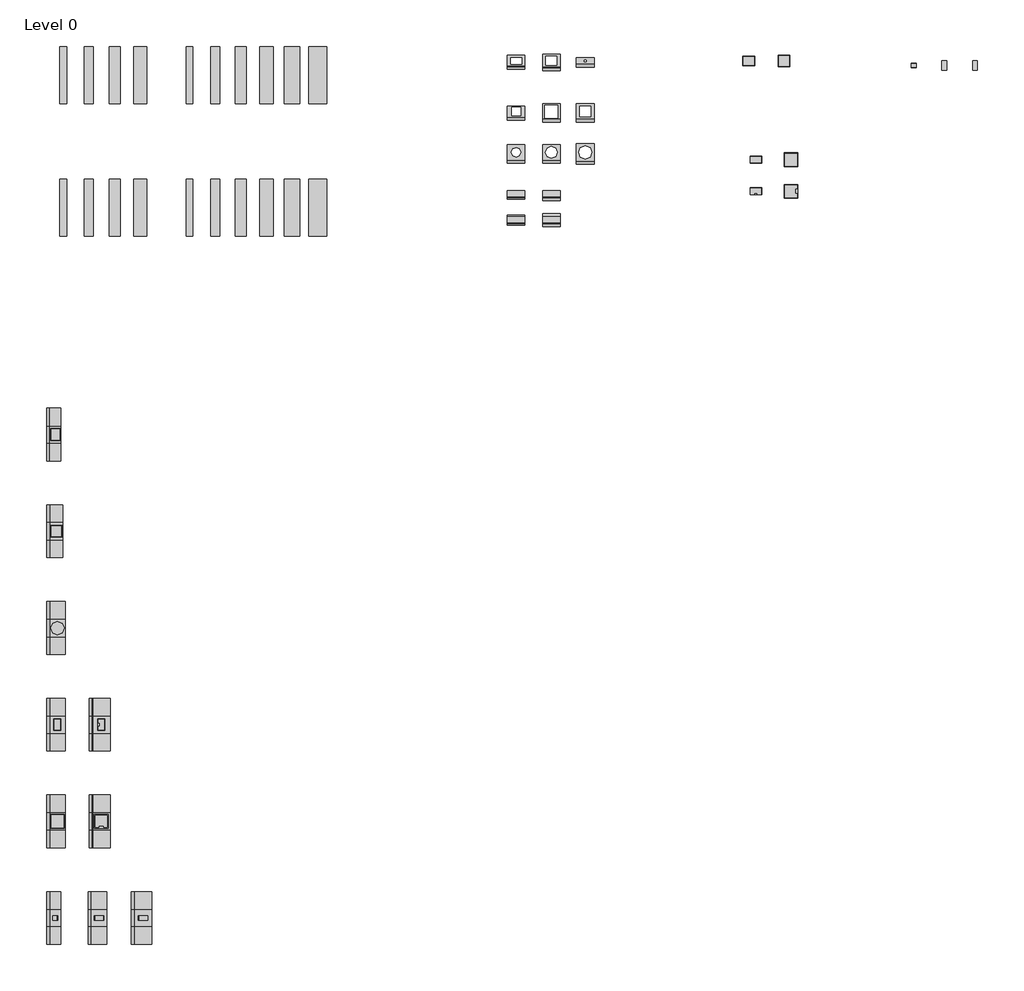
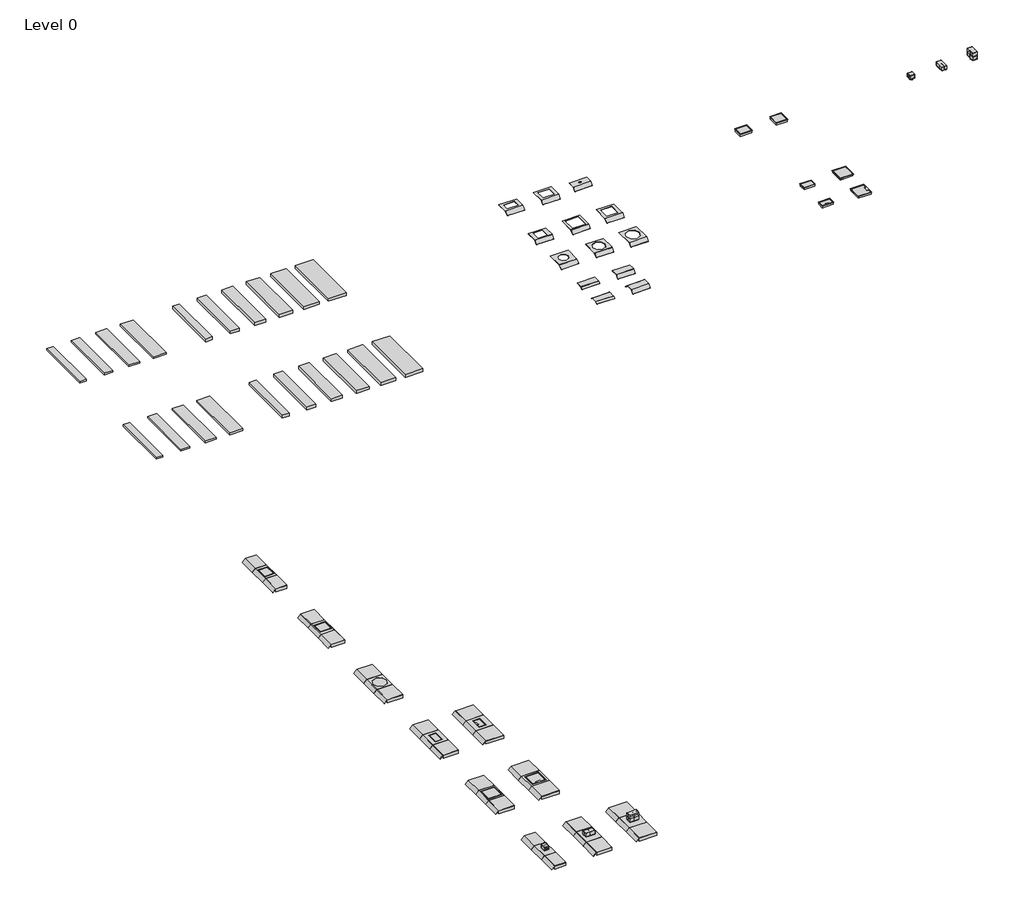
# One storey, incomplete: 61 proxies, 30 cable carrier segments.
"""IFC4 building model written with IfcOpenShell, lengths in millimetres."""

from ifc_helpers import new_model, si_unit, frame, origin, place, context, project, spatial, polyline, outline, extrude, transform, mapped, element, save
from components import electrical_fixtures_814ce579, electrical_fixtures_f748b149, electrical_fixtures_7f43b690, electrical_fixtures_50cfb48d, electrical_fixtures_1099af83, electrical_fixtures_dd45cec8, electrical_fixtures_bc675c06, electrical_fixtures_8ed366d0, electrical_fixtures_be977d01, electrical_fixtures_2923e737, electrical_fixtures_6f066a29, electrical_fixtures_30c5370d, electrical_fixtures_c0643166, electrical_fixtures_3a1a2a50, electrical_fixtures_6b5bff6d, electrical_fixtures_38a7e8f5, electrical_fixtures_79a94ea6, electrical_fixtures_345be723, electrical_fixtures_3529a418, electrical_fixtures_05cc857e, electrical_fixtures_39b6e9ab, electrical_fixtures_66444e16, electrical_fixtures_ba14407c, electrical_fixtures_65cdaa76, electrical_fixtures_09e81cb8, electrical_fixtures_d09597e5, electrical_fixtures_02c799a8, electrical_fixtures_ac32d23e, electrical_fixtures_5756d35e, color_deep_black_c19cb628, color_deep_black_3e0b7094, color_deep_black_c4cdae59, color_deep_black_f01a6ed9, color_deep_black_142afe5e, color_iron_grey_872dce2f

model = new_model("IFC4")

# Units and contexts
model_context = context("Model", 3, world=origin())
ifc_project = project(units=[si_unit("LENGTHUNIT", "METRE", prefix="MILLI")], contexts=[model_context])

# Site, building, storey
site = spatial("IfcSite", under=ifc_project)
building = spatial("IfcBuilding", under=site)
storey = spatial("IfcBuildingStorey", under=building, Name="Level 0", Elevation=0.0)

# Proxies
placement = place(None, origin())
electrical_fixtures_shape = electrical_fixtures_814ce579(model_context)
element("IfcBuildingElementProxy", 1, Name="Electrical_Installation_Hager_Covers-With-Installation-Opening-Q12 : Electrical_Installation_Hager_Covers-With-Installation-Opening-Q12", ObjectType="Electrical_Installation_Hager_Covers-With-Installation-Opening-Q12 : Electrical_Installation_Hager_Covers-With-Installation-Opening-Q12", at=placement, inside=storey, context=model_context, shape_type="MappedRepresentation", body=[
    mapped(electrical_fixtures_shape, transform((-12658.3941097, 8330.9530457, 0.0), x_axis=(1.0, 0.0, 0.0), y_axis=(0.0, 1.0, 0.0), z_axis=(0.0, 0.0, 1.0))),
])
electrical_fixtures_2_shape = electrical_fixtures_f748b149(model_context)
element("IfcBuildingElementProxy", 2, Name="Electrical_Installation_Hager_Blank-Cover-400mm-Single-Sided-Height-40mm : Electrical_Installation_Hager_Blank-Cover-400mm-Single-Sided-Height-40mm", ObjectType="Electrical_Installation_Hager_Blank-Cover-400mm-Single-Sided-Height-40mm : Electrical_Installation_Hager_Blank-Cover-400mm-Single-Sided-Height-40mm", at=placement, inside=storey, context=model_context, shape_type="MappedRepresentation", body=[
    mapped(electrical_fixtures_2_shape, transform((-14229.7859667, 6453.397014, 0.0), x_axis=(1.0, 0.0, 0.0), y_axis=(0.0, 1.0, 0.0), z_axis=(0.0, 0.0, 1.0))),
])
electrical_fixtures_3_shape = electrical_fixtures_7f43b690(model_context)
element("IfcBuildingElementProxy", 3, Name="Electrical_Installation_Hager_Blank-Cover-400mm-Double-Sided-Height-40mm : Electrical_Installation_Hager_Blank-Cover-400mm-Double-Sided-Height-40mm", ObjectType="Electrical_Installation_Hager_Blank-Cover-400mm-Double-Sided-Height-40mm : Electrical_Installation_Hager_Blank-Cover-400mm-Double-Sided-Height-40mm", at=placement, inside=storey, context=model_context, shape_type="MappedRepresentation", body=[
    mapped(electrical_fixtures_3_shape, transform((-14229.7859667, 5863.3856687, 0.0), x_axis=(1.0, 0.0, 0.0), y_axis=(0.0, 1.0, 0.0), z_axis=(0.0, 0.0, 1.0))),
])
electrical_fixtures_4_shape = electrical_fixtures_50cfb48d(model_context)
element("IfcBuildingElementProxy", 4, Name="Electrical_Installation_Hager_Blank-Cover-400mm-Single-Sided-Height-70mm : Electrical_Installation_Hager_Blank-Cover-400mm-Single-Sided-Height-70mm", ObjectType="Electrical_Installation_Hager_Blank-Cover-400mm-Single-Sided-Height-70mm : Electrical_Installation_Hager_Blank-Cover-400mm-Single-Sided-Height-70mm", at=placement, inside=storey, context=model_context, shape_type="MappedRepresentation", body=[
    mapped(electrical_fixtures_4_shape, transform((-13429.9997932, 6453.397014, 0.0), x_axis=(1.0, 0.0, 0.0), y_axis=(0.0, 1.0, 0.0), z_axis=(0.0, 0.0, 1.0))),
])
electrical_fixtures_5_shape = electrical_fixtures_1099af83(model_context)
element("IfcBuildingElementProxy", 5, Name="Electrical_Installation_Hager_Blank-Cover-400mm-Double-Sided-Height-70mm : Electrical_Installation_Hager_Blank-Cover-400mm-Double-Sided-Height-70mm", ObjectType="Electrical_Installation_Hager_Blank-Cover-400mm-Double-Sided-Height-70mm : Electrical_Installation_Hager_Blank-Cover-400mm-Double-Sided-Height-70mm", at=placement, inside=storey, context=model_context, shape_type="MappedRepresentation", body=[
    mapped(electrical_fixtures_5_shape, transform((-13429.9997932, 5863.3856687, 0.0), x_axis=(1.0, 0.0, 0.0), y_axis=(0.0, 1.0, 0.0), z_axis=(0.0, 0.0, 1.0))),
])
electrical_fixtures_6_shape = electrical_fixtures_dd45cec8(model_context)
element("IfcBuildingElementProxy", 6, Name="Electrical_Installation_Hager_VE-EE_Pedestal-box-8 : GB pedestal box 8 inst. fields iron gray", ObjectType="Electrical_Installation_Hager_VE-EE_Pedestal-box-8 : GB pedestal box 8 inst. fields iron gray", at=placement, inside=storey, context=model_context, shape_type="MappedRepresentation", body=[
    mapped(electrical_fixtures_6_shape, transform((-3593.0699403, 9378.4632376, 0.0), x_axis=(1.0, 0.0, 0.0), y_axis=(0.0, 1.0, 0.0), z_axis=(0.0, 0.0, 1.0))),
])
element("IfcBuildingElementProxy", 7, Name="Electrical_Installation_Hager_VE-EE_Pedestal-box-8 : GB pedestal box 8 inst. fields iron gray", ObjectType="Electrical_Installation_Hager_VE-EE_Pedestal-box-8 : GB pedestal box 8 inst. fields iron gray", at=placement, inside=storey, context=model_context, shape_type="MappedRepresentation", body=[
    mapped(electrical_fixtures_6_shape, transform((-22514.0073184, -10020.0103905, 40.5), x_axis=(0.0, -1.0, 0.0), y_axis=(1.0, 0.0, 0.0), z_axis=(0.0, 0.0, 1.0))),
])
electrical_fixtures_7_shape = electrical_fixtures_bc675c06(model_context)
element("IfcBuildingElementProxy", 8, Name="Electrical_Installation_Hager_VE-EE_Pedestal-box-2 : GB pedestal box 2 inst. fields iron gray", ObjectType="Electrical_Installation_Hager_VE-EE_Pedestal-box-2 : GB pedestal box 2 inst. fields iron gray", at=placement, inside=storey, context=model_context, shape_type="MappedRepresentation", body=[
    mapped(electrical_fixtures_7_shape, transform((-4986.8644368, 9378.4632376, 0.0), x_axis=(1.0, 0.0, 0.0), y_axis=(0.0, 1.0, 0.0), z_axis=(0.0, 0.0, 1.0))),
])
element("IfcBuildingElementProxy", 9, Name="Electrical_Installation_Hager_VE-EE_Pedestal-box-2 : GB pedestal box 2 inst. fields iron gray", ObjectType="Electrical_Installation_Hager_VE-EE_Pedestal-box-2 : GB pedestal box 2 inst. fields iron gray", at=placement, inside=storey, context=model_context, shape_type="MappedRepresentation", body=[
    mapped(electrical_fixtures_7_shape, transform((-24514.0073184, -10020.0103905, 40.5), x_axis=(0.0, -1.0, 0.0), y_axis=(1.0, 0.0, 0.0), z_axis=(0.0, 0.0, 1.0))),
])
electrical_fixtures_8_shape = electrical_fixtures_8ed366d0(model_context)
element("IfcBuildingElementProxy", 10, Name="Electrical_Installation_Hager_VE-EE_Pedestal-box-4 : GB pedestal box 4 inst. fields iron gray", ObjectType="Electrical_Installation_Hager_VE-EE_Pedestal-box-4 : GB pedestal box 4 inst. fields iron gray", at=placement, inside=storey, context=model_context, shape_type="MappedRepresentation", body=[
    mapped(electrical_fixtures_8_shape, transform((-4295.1378943, 9378.4632376, 0.0), x_axis=(1.0, 0.0, 0.0), y_axis=(0.0, 1.0, 0.0), z_axis=(0.0, 0.0, 1.0))),
])
element("IfcBuildingElementProxy", 11, Name="Electrical_Installation_Hager_VE-EE_Pedestal-box-4 : GB pedestal box 4 inst. fields iron gray", ObjectType="Electrical_Installation_Hager_VE-EE_Pedestal-box-4 : GB pedestal box 4 inst. fields iron gray", at=placement, inside=storey, context=model_context, shape_type="MappedRepresentation", body=[
    mapped(electrical_fixtures_8_shape, transform((-23514.0073184, -10020.0103905, 40.5), x_axis=(0.0, -1.0, 0.0), y_axis=(1.0, 0.0, 0.0), z_axis=(0.0, 0.0, 1.0))),
])
electrical_fixtures_9_shape = electrical_fixtures_be977d01(model_context)
element("IfcBuildingElementProxy", 12, Name="Electrical_Installation_Hager_Covers-With-Installation-Opening-Q06 : Electrical_Installation_Hager_Covers-With-Installation-Opening-Q06", ObjectType="Electrical_Installation_Hager_Covers-With-Installation-Opening-Q06 : Electrical_Installation_Hager_Covers-With-Installation-Opening-Q06", at=placement, inside=storey, context=model_context, shape_type="MappedRepresentation", body=[
    mapped(electrical_fixtures_9_shape, transform((-14229.7859667, 8330.9530457, 0.0), x_axis=(1.0, 0.0, 0.0), y_axis=(0.0, 1.0, 0.0), z_axis=(0.0, 0.0, 1.0))),
])
electrical_fixtures_10_shape = electrical_fixtures_2923e737(model_context)
element("IfcBuildingElementProxy", 13, Name="Electrical_Installation_Hager_Covers-With-Installation-Opening-Q08 : Electrical_Installation_Hager_Covers-With-Installation-Opening-Q08", ObjectType="Electrical_Installation_Hager_Covers-With-Installation-Opening-Q08 : Electrical_Installation_Hager_Covers-With-Installation-Opening-Q08", at=placement, inside=storey, context=model_context, shape_type="MappedRepresentation", body=[
    mapped(electrical_fixtures_10_shape, transform((-13429.9997932, 8330.9530457, 0.0), x_axis=(1.0, 0.0, 0.0), y_axis=(0.0, 1.0, 0.0), z_axis=(0.0, 0.0, 1.0))),
])
element("IfcBuildingElementProxy", 14, Name="Electrical_Installation_Hager_Covers-With-Installation-Opening-Q08 : Electrical_Installation_Hager_Covers-With-Installation-Opening-Q08", ObjectType="Electrical_Installation_Hager_Covers-With-Installation-Opening-Q08 : Electrical_Installation_Hager_Covers-With-Installation-Opening-Q08", at=placement, inside=storey, context=model_context, shape_type="MappedRepresentation", body=[
    mapped(electrical_fixtures_10_shape, transform((-24463.9572711, -7620.0103905, 0.0), x_axis=(0.0, -1.0, 0.0), y_axis=(1.0, 0.0, 0.0), z_axis=(0.0, 0.0, 1.0))),
])
electrical_fixtures_11_shape = electrical_fixtures_6f066a29(model_context)
element("IfcBuildingElementProxy", 15, Name="Electrical_Installation_Hager_Covers-With-Installation-Opening-Q12 : Electrical_Installation_Hager_Covers-With-Installation-Opening-Q12", ObjectType="Electrical_Installation_Hager_Covers-With-Installation-Opening-Q12 : Electrical_Installation_Hager_Covers-With-Installation-Opening-Q12", at=placement, inside=storey, context=model_context, shape_type="MappedRepresentation", body=[
    mapped(electrical_fixtures_11_shape, transform((-24489.0073184, -1020.0103905, 0.0), x_axis=(0.0, -1.0, 0.0), y_axis=(1.0, 0.0, 0.0), z_axis=(0.0, 0.0, 1.0))),
])
electrical_fixtures_12_shape = electrical_fixtures_30c5370d(model_context)
element("IfcBuildingElementProxy", 16, Name="Electrical_Installation_Hager_Covers-With-Installation-Opening-R06 : Electrical_Installation_Hager_Covers-With-Installation-Opening-R06", ObjectType="Electrical_Installation_Hager_Covers-With-Installation-Opening-R06 : Electrical_Installation_Hager_Covers-With-Installation-Opening-R06", at=placement, inside=storey, context=model_context, shape_type="MappedRepresentation", body=[
    mapped(electrical_fixtures_12_shape, transform((-14229.7859667, 7405.0262255, 0.0), x_axis=(1.0, 0.0, 0.0), y_axis=(0.0, 1.0, 0.0), z_axis=(0.0, 0.0, 1.0))),
])
electrical_fixtures_13_shape = electrical_fixtures_c0643166(model_context)
element("IfcBuildingElementProxy", 17, Name="Electrical_Installation_Hager_Covers-With-Installation-Opening-R10 : Electrical_Installation_Hager_Covers-With-Installation-Opening-R10", ObjectType="Electrical_Installation_Hager_Covers-With-Installation-Opening-R10 : Electrical_Installation_Hager_Covers-With-Installation-Opening-R10", at=placement, inside=storey, context=model_context, shape_type="MappedRepresentation", body=[
    mapped(electrical_fixtures_13_shape, transform((-13429.9997932, 7405.0262255, 0.0), x_axis=(1.0, 0.0, 0.0), y_axis=(0.0, 1.0, 0.0), z_axis=(0.0, 0.0, 1.0))),
])
electrical_fixtures_14_shape = electrical_fixtures_3a1a2a50(model_context)
element("IfcBuildingElementProxy", 18, Name="Electrical_Installation_Hager_Covers-With-Installation-Opening-R12 : Electrical_Installation_Hager_Covers-With-Installation-Opening-R12", ObjectType="Electrical_Installation_Hager_Covers-With-Installation-Opening-R12 : Electrical_Installation_Hager_Covers-With-Installation-Opening-R12", at=placement, inside=storey, context=model_context, shape_type="MappedRepresentation", body=[
    mapped(electrical_fixtures_14_shape, transform((-12658.3941097, 7405.0262255, 0.0), x_axis=(1.0, 0.0, 0.0), y_axis=(0.0, 1.0, 0.0), z_axis=(0.0, 0.0, 1.0))),
])
electrical_fixtures_15_shape = electrical_fixtures_6b5bff6d(model_context)
element("IfcBuildingElementProxy", 19, Name="Electrical_Installation_Hager_Covers-With-Installation-Opening-R12 : Electrical_Installation_Hager_Covers-With-Installation-Opening-R12", ObjectType="Electrical_Installation_Hager_Covers-With-Installation-Opening-R12 : Electrical_Installation_Hager_Covers-With-Installation-Opening-R12", at=placement, inside=storey, context=model_context, shape_type="MappedRepresentation", body=[
    mapped(electrical_fixtures_15_shape, transform((-24464.0073184, -3220.0103905, 0.0), x_axis=(0.0, -1.0, 0.0), y_axis=(1.0, 0.0, 0.0), z_axis=(0.0, 0.0, 1.0))),
])
electrical_fixtures_16_shape = electrical_fixtures_38a7e8f5(model_context)
element("IfcBuildingElementProxy", 20, Name="Electrical_Installation_Hager_Blank-Cover-400mm-Single-Sided-Height-70mm : Electrical_Installation_Hager_Blank-Cover-400mm-Single-Sided-Height-70mm", ObjectType="Electrical_Installation_Hager_Blank-Cover-400mm-Single-Sided-Height-70mm : Electrical_Installation_Hager_Blank-Cover-400mm-Single-Sided-Height-70mm", at=placement, inside=storey, context=model_context, shape_type="MappedRepresentation", body=[
    mapped(electrical_fixtures_16_shape, transform((-24509.7913984, 1579.9896095, 0.0), x_axis=(0.0, -1.0, 0.0), y_axis=(1.0, 0.0, 0.0), z_axis=(0.0, 0.0, 1.0))),
])
element("IfcBuildingElementProxy", 21, Name="Electrical_Installation_Hager_Blank-Cover-400mm-Single-Sided-Height-70mm : Electrical_Installation_Hager_Blank-Cover-400mm-Single-Sided-Height-70mm", ObjectType="Electrical_Installation_Hager_Blank-Cover-400mm-Single-Sided-Height-70mm : Electrical_Installation_Hager_Blank-Cover-400mm-Single-Sided-Height-70mm", at=placement, inside=storey, context=model_context, shape_type="MappedRepresentation", body=[
    mapped(electrical_fixtures_16_shape, transform((-24509.7913984, 779.9896095, 0.0), x_axis=(0.0, -1.0, 0.0), y_axis=(1.0, 0.0, 0.0), z_axis=(0.0, 0.0, 1.0))),
])
element("IfcBuildingElementProxy", 22, Name="Electrical_Installation_Hager_Blank-Cover-400mm-Single-Sided-Height-70mm : Electrical_Installation_Hager_Blank-Cover-400mm-Single-Sided-Height-70mm", ObjectType="Electrical_Installation_Hager_Blank-Cover-400mm-Single-Sided-Height-70mm : Electrical_Installation_Hager_Blank-Cover-400mm-Single-Sided-Height-70mm", at=placement, inside=storey, context=model_context, shape_type="MappedRepresentation", body=[
    mapped(electrical_fixtures_16_shape, transform((-24514.0073184, -9420.0103905, 0.0), x_axis=(0.0, -1.0, 0.0), y_axis=(1.0, 0.0, 0.0), z_axis=(0.0, 0.0, 1.0))),
])
element("IfcBuildingElementProxy", 23, Name="Electrical_Installation_Hager_Blank-Cover-400mm-Single-Sided-Height-70mm : Electrical_Installation_Hager_Blank-Cover-400mm-Single-Sided-Height-70mm", ObjectType="Electrical_Installation_Hager_Blank-Cover-400mm-Single-Sided-Height-70mm : Electrical_Installation_Hager_Blank-Cover-400mm-Single-Sided-Height-70mm", at=placement, inside=storey, context=model_context, shape_type="MappedRepresentation", body=[
    mapped(electrical_fixtures_16_shape, transform((-24514.0073184, -10220.0103905, 0.0), x_axis=(0.0, -1.0, 0.0), y_axis=(1.0, 0.0, 0.0), z_axis=(0.0, 0.0, 1.0))),
])
electrical_fixtures_17_shape = electrical_fixtures_79a94ea6(model_context)
element("IfcBuildingElementProxy", 24, Name="Electrical_Installation_Hager_Blank-Cover-400mm-Single-Sided-Height-70mm : Electrical_Installation_Hager_Blank-Cover-400mm-Single-Sided-Height-70mm", ObjectType="Electrical_Installation_Hager_Blank-Cover-400mm-Single-Sided-Height-70mm : Electrical_Installation_Hager_Blank-Cover-400mm-Single-Sided-Height-70mm", at=placement, inside=storey, context=model_context, shape_type="MappedRepresentation", body=[
    mapped(electrical_fixtures_17_shape, transform((-24464.0073184, -2820.0103905, 0.0), x_axis=(0.0, -1.0, 0.0), y_axis=(1.0, 0.0, 0.0), z_axis=(0.0, 0.0, 1.0))),
])
element("IfcBuildingElementProxy", 25, Name="Electrical_Installation_Hager_Blank-Cover-400mm-Single-Sided-Height-70mm : Electrical_Installation_Hager_Blank-Cover-400mm-Single-Sided-Height-70mm", ObjectType="Electrical_Installation_Hager_Blank-Cover-400mm-Single-Sided-Height-70mm : Electrical_Installation_Hager_Blank-Cover-400mm-Single-Sided-Height-70mm", at=placement, inside=storey, context=model_context, shape_type="MappedRepresentation", body=[
    mapped(electrical_fixtures_17_shape, transform((-24464.0073184, -3620.0103905, 0.0), x_axis=(0.0, -1.0, 0.0), y_axis=(1.0, 0.0, 0.0), z_axis=(0.0, 0.0, 1.0))),
])
element("IfcBuildingElementProxy", 26, Name="Electrical_Installation_Hager_Blank-Cover-400mm-Single-Sided-Height-70mm : Electrical_Installation_Hager_Blank-Cover-400mm-Single-Sided-Height-70mm", ObjectType="Electrical_Installation_Hager_Blank-Cover-400mm-Single-Sided-Height-70mm : Electrical_Installation_Hager_Blank-Cover-400mm-Single-Sided-Height-70mm", at=placement, inside=storey, context=model_context, shape_type="MappedRepresentation", body=[
    mapped(electrical_fixtures_17_shape, transform((-24464.0073184, -5020.0103905, 0.0), x_axis=(0.0, -1.0, 0.0), y_axis=(1.0, 0.0, 0.0), z_axis=(0.0, 0.0, 1.0))),
])
element("IfcBuildingElementProxy", 27, Name="Electrical_Installation_Hager_Blank-Cover-400mm-Single-Sided-Height-70mm : Electrical_Installation_Hager_Blank-Cover-400mm-Single-Sided-Height-70mm", ObjectType="Electrical_Installation_Hager_Blank-Cover-400mm-Single-Sided-Height-70mm : Electrical_Installation_Hager_Blank-Cover-400mm-Single-Sided-Height-70mm", at=placement, inside=storey, context=model_context, shape_type="MappedRepresentation", body=[
    mapped(electrical_fixtures_17_shape, transform((-24464.0073184, -5820.0103905, 0.0), x_axis=(0.0, -1.0, 0.0), y_axis=(1.0, 0.0, 0.0), z_axis=(0.0, 0.0, 1.0))),
])
element("IfcBuildingElementProxy", 28, Name="Electrical_Installation_Hager_Blank-Cover-400mm-Single-Sided-Height-70mm : Electrical_Installation_Hager_Blank-Cover-400mm-Single-Sided-Height-70mm", ObjectType="Electrical_Installation_Hager_Blank-Cover-400mm-Single-Sided-Height-70mm : Electrical_Installation_Hager_Blank-Cover-400mm-Single-Sided-Height-70mm", at=placement, inside=storey, context=model_context, shape_type="MappedRepresentation", body=[
    mapped(electrical_fixtures_17_shape, transform((-24463.9572711, -7220.0103905, 0.0), x_axis=(0.0, -1.0, 0.0), y_axis=(1.0, 0.0, 0.0), z_axis=(0.0, 0.0, 1.0))),
])
element("IfcBuildingElementProxy", 29, Name="Electrical_Installation_Hager_Blank-Cover-400mm-Single-Sided-Height-70mm : Electrical_Installation_Hager_Blank-Cover-400mm-Single-Sided-Height-70mm", ObjectType="Electrical_Installation_Hager_Blank-Cover-400mm-Single-Sided-Height-70mm : Electrical_Installation_Hager_Blank-Cover-400mm-Single-Sided-Height-70mm", at=placement, inside=storey, context=model_context, shape_type="MappedRepresentation", body=[
    mapped(electrical_fixtures_17_shape, transform((-24463.9572711, -8020.0103905, 0.0), x_axis=(0.0, -1.0, 0.0), y_axis=(1.0, 0.0, 0.0), z_axis=(0.0, 0.0, 1.0))),
])
element("IfcBuildingElementProxy", 30, Name="Electrical_Installation_Hager_Blank-Cover-400mm-Single-Sided-Height-70mm : Electrical_Installation_Hager_Blank-Cover-400mm-Single-Sided-Height-70mm", ObjectType="Electrical_Installation_Hager_Blank-Cover-400mm-Single-Sided-Height-70mm : Electrical_Installation_Hager_Blank-Cover-400mm-Single-Sided-Height-70mm", at=placement, inside=storey, context=model_context, shape_type="MappedRepresentation", body=[
    mapped(electrical_fixtures_17_shape, transform((-23514.0073184, -9420.0103905, 0.0), x_axis=(0.0, -1.0, 0.0), y_axis=(1.0, 0.0, 0.0), z_axis=(0.0, 0.0, 1.0))),
])
element("IfcBuildingElementProxy", 31, Name="Electrical_Installation_Hager_Blank-Cover-400mm-Single-Sided-Height-70mm : Electrical_Installation_Hager_Blank-Cover-400mm-Single-Sided-Height-70mm", ObjectType="Electrical_Installation_Hager_Blank-Cover-400mm-Single-Sided-Height-70mm : Electrical_Installation_Hager_Blank-Cover-400mm-Single-Sided-Height-70mm", at=placement, inside=storey, context=model_context, shape_type="MappedRepresentation", body=[
    mapped(electrical_fixtures_17_shape, transform((-23514.0073184, -10220.0103905, 0.0), x_axis=(0.0, -1.0, 0.0), y_axis=(1.0, 0.0, 0.0), z_axis=(0.0, 0.0, 1.0))),
])
electrical_fixtures_18_shape = electrical_fixtures_345be723(model_context)
element("IfcBuildingElementProxy", 32, Name="Electrical_Installation_Hager_Blank-Cover-400mm-Single-Sided-Height-70mm : Electrical_Installation_Hager_Blank-Cover-400mm-Single-Sided-Height-70mm", ObjectType="Electrical_Installation_Hager_Blank-Cover-400mm-Single-Sided-Height-70mm : Electrical_Installation_Hager_Blank-Cover-400mm-Single-Sided-Height-70mm", at=placement, inside=storey, context=model_context, shape_type="MappedRepresentation", body=[
    mapped(electrical_fixtures_18_shape, transform((-23464.0073184, -5020.0103905, 0.0), x_axis=(0.0, -1.0, 0.0), y_axis=(1.0, 0.0, 0.0), z_axis=(0.0, 0.0, 1.0))),
])
element("IfcBuildingElementProxy", 33, Name="Electrical_Installation_Hager_Blank-Cover-400mm-Single-Sided-Height-70mm : Electrical_Installation_Hager_Blank-Cover-400mm-Single-Sided-Height-70mm", ObjectType="Electrical_Installation_Hager_Blank-Cover-400mm-Single-Sided-Height-70mm : Electrical_Installation_Hager_Blank-Cover-400mm-Single-Sided-Height-70mm", at=placement, inside=storey, context=model_context, shape_type="MappedRepresentation", body=[
    mapped(electrical_fixtures_18_shape, transform((-23464.0073184, -5820.0103905, 0.0), x_axis=(0.0, -1.0, 0.0), y_axis=(1.0, 0.0, 0.0), z_axis=(0.0, 0.0, 1.0))),
])
element("IfcBuildingElementProxy", 34, Name="Electrical_Installation_Hager_Blank-Cover-400mm-Single-Sided-Height-70mm : Electrical_Installation_Hager_Blank-Cover-400mm-Single-Sided-Height-70mm", ObjectType="Electrical_Installation_Hager_Blank-Cover-400mm-Single-Sided-Height-70mm : Electrical_Installation_Hager_Blank-Cover-400mm-Single-Sided-Height-70mm", at=placement, inside=storey, context=model_context, shape_type="MappedRepresentation", body=[
    mapped(electrical_fixtures_18_shape, transform((-23463.9572711, -7220.0103905, 0.0), x_axis=(0.0, -1.0, 0.0), y_axis=(1.0, 0.0, 0.0), z_axis=(0.0, 0.0, 1.0))),
])
element("IfcBuildingElementProxy", 35, Name="Electrical_Installation_Hager_Blank-Cover-400mm-Single-Sided-Height-70mm : Electrical_Installation_Hager_Blank-Cover-400mm-Single-Sided-Height-70mm", ObjectType="Electrical_Installation_Hager_Blank-Cover-400mm-Single-Sided-Height-70mm : Electrical_Installation_Hager_Blank-Cover-400mm-Single-Sided-Height-70mm", at=placement, inside=storey, context=model_context, shape_type="MappedRepresentation", body=[
    mapped(electrical_fixtures_18_shape, transform((-23463.9572711, -8020.0103905, 0.0), x_axis=(0.0, -1.0, 0.0), y_axis=(1.0, 0.0, 0.0), z_axis=(0.0, 0.0, 1.0))),
])
element("IfcBuildingElementProxy", 36, Name="Electrical_Installation_Hager_Blank-Cover-400mm-Single-Sided-Height-70mm : Electrical_Installation_Hager_Blank-Cover-400mm-Single-Sided-Height-70mm", ObjectType="Electrical_Installation_Hager_Blank-Cover-400mm-Single-Sided-Height-70mm : Electrical_Installation_Hager_Blank-Cover-400mm-Single-Sided-Height-70mm", at=placement, inside=storey, context=model_context, shape_type="MappedRepresentation", body=[
    mapped(electrical_fixtures_18_shape, transform((-22514.0073184, -9420.0103905, 0.0), x_axis=(0.0, -1.0, 0.0), y_axis=(1.0, 0.0, 0.0), z_axis=(0.0, 0.0, 1.0))),
])
element("IfcBuildingElementProxy", 37, Name="Electrical_Installation_Hager_Blank-Cover-400mm-Single-Sided-Height-70mm : Electrical_Installation_Hager_Blank-Cover-400mm-Single-Sided-Height-70mm", ObjectType="Electrical_Installation_Hager_Blank-Cover-400mm-Single-Sided-Height-70mm : Electrical_Installation_Hager_Blank-Cover-400mm-Single-Sided-Height-70mm", at=placement, inside=storey, context=model_context, shape_type="MappedRepresentation", body=[
    mapped(electrical_fixtures_18_shape, transform((-22514.0073184, -10220.0103905, 0.0), x_axis=(0.0, -1.0, 0.0), y_axis=(1.0, 0.0, 0.0), z_axis=(0.0, 0.0, 1.0))),
])
electrical_fixtures_19_shape = electrical_fixtures_3529a418(model_context)
element("IfcBuildingElementProxy", 38, Name="Electrical_Installation_Hager_Blank-Cover-400mm-Single-Sided-Height-70mm : Electrical_Installation_Hager_Blank-Cover-400mm-Single-Sided-Height-70mm", ObjectType="Electrical_Installation_Hager_Blank-Cover-400mm-Single-Sided-Height-70mm : Electrical_Installation_Hager_Blank-Cover-400mm-Single-Sided-Height-70mm", at=placement, inside=storey, context=model_context, shape_type="MappedRepresentation", body=[
    mapped(electrical_fixtures_19_shape, transform((-24489.0073184, -620.0103905, 0.0), x_axis=(0.0, -1.0, 0.0), y_axis=(1.0, 0.0, 0.0), z_axis=(0.0, 0.0, 1.0))),
])
element("IfcBuildingElementProxy", 39, Name="Electrical_Installation_Hager_Blank-Cover-400mm-Single-Sided-Height-70mm : Electrical_Installation_Hager_Blank-Cover-400mm-Single-Sided-Height-70mm", ObjectType="Electrical_Installation_Hager_Blank-Cover-400mm-Single-Sided-Height-70mm : Electrical_Installation_Hager_Blank-Cover-400mm-Single-Sided-Height-70mm", at=placement, inside=storey, context=model_context, shape_type="MappedRepresentation", body=[
    mapped(electrical_fixtures_19_shape, transform((-24489.0073184, -1420.0103905, 0.0), x_axis=(0.0, -1.0, 0.0), y_axis=(1.0, 0.0, 0.0), z_axis=(0.0, 0.0, 1.0))),
])
electrical_fixtures_20_shape = electrical_fixtures_05cc857e(model_context)
element("IfcBuildingElementProxy", 40, Name="Electrical_Installation_Hager_Covers-With-Installation-Opening-E04 : Electrical_Installation_Hager_Covers-With-Installation-Opening-E04", ObjectType="Electrical_Installation_Hager_Covers-With-Installation-Opening-E04 : Electrical_Installation_Hager_Covers-With-Installation-Opening-E04", at=placement, inside=storey, context=model_context, shape_type="MappedRepresentation", body=[
    mapped(electrical_fixtures_20_shape, transform((-14229.7859667, 9484.2786149, 0.0), x_axis=(1.0, 0.0, 0.0), y_axis=(0.0, 1.0, 0.0), z_axis=(0.0, 0.0, 1.0))),
])
electrical_fixtures_21_shape = electrical_fixtures_39b6e9ab(model_context)
element("IfcBuildingElementProxy", 41, Name="Electrical_Installation_Hager_Covers-With-Installation-Opening-E04 : Electrical_Installation_Hager_Covers-With-Installation-Opening-E04", ObjectType="Electrical_Installation_Hager_Covers-With-Installation-Opening-E04 : Electrical_Installation_Hager_Covers-With-Installation-Opening-E04", at=placement, inside=storey, context=model_context, shape_type="MappedRepresentation", body=[
    mapped(electrical_fixtures_21_shape, transform((-24464.0073184, -5420.0103905, 0.0), x_axis=(0.0, -1.0, 0.0), y_axis=(1.0, 0.0, 0.0), z_axis=(0.0, 0.0, 1.0))),
])
electrical_fixtures_22_shape = electrical_fixtures_66444e16(model_context)
element("IfcBuildingElementProxy", 42, Name="Electrical_Installation_Hager_Covers-With-Installation-Opening-E04 : Electrical_Installation_Hager_Covers-With-Installation-Opening-E04", ObjectType="Electrical_Installation_Hager_Covers-With-Installation-Opening-E04 : Electrical_Installation_Hager_Covers-With-Installation-Opening-E04", at=placement, inside=storey, context=model_context, shape_type="MappedRepresentation", body=[
    mapped(electrical_fixtures_22_shape, transform((-23464.0073184, -5420.0103905, 0.0), x_axis=(0.0, -1.0, 0.0), y_axis=(1.0, 0.0, 0.0), z_axis=(0.0, 0.0, 1.0))),
])
electrical_fixtures_23_shape = electrical_fixtures_ba14407c(model_context)
element("IfcBuildingElementProxy", 43, Name="Electrical_Installation_Hager_Covers-With-Installation-Opening-E09 : Electrical_Installation_Hager_Covers-With-Installation-Opening-E09", ObjectType="Electrical_Installation_Hager_Covers-With-Installation-Opening-E09 : Electrical_Installation_Hager_Covers-With-Installation-Opening-E09", at=placement, inside=storey, context=model_context, shape_type="MappedRepresentation", body=[
    mapped(electrical_fixtures_23_shape, transform((-13429.9997932, 9484.2786149, 0.0), x_axis=(1.0, 0.0, 0.0), y_axis=(0.0, 1.0, 0.0), z_axis=(0.0, 0.0, 1.0))),
])
electrical_fixtures_24_shape = electrical_fixtures_65cdaa76(model_context)
element("IfcBuildingElementProxy", 44, Name="Electrical_Installation_Hager_Covers-With-Installation-Opening-E09 : Electrical_Installation_Hager_Covers-With-Installation-Opening-E09", ObjectType="Electrical_Installation_Hager_Covers-With-Installation-Opening-E09 : Electrical_Installation_Hager_Covers-With-Installation-Opening-E09", at=placement, inside=storey, context=model_context, shape_type="MappedRepresentation", body=[
    mapped(electrical_fixtures_24_shape, transform((-24509.7913984, 1179.9896095, 0.0), x_axis=(0.0, -1.0, 0.0), y_axis=(1.0, 0.0, 0.0), z_axis=(0.0, 0.0, 1.0))),
])
electrical_fixtures_25_shape = electrical_fixtures_09e81cb8(model_context)
element("IfcBuildingElementProxy", 45, Name="Electrical_Installation_Hager_Covers-With-Installation-Opening-GBZ : Electrical_Installation_Hager_Covers-With-Installation-Opening-GBZ", ObjectType="Electrical_Installation_Hager_Covers-With-Installation-Opening-GBZ : Electrical_Installation_Hager_Covers-With-Installation-Opening-GBZ", at=placement, inside=storey, context=model_context, shape_type="MappedRepresentation", body=[
    mapped(electrical_fixtures_25_shape, transform((-12658.3941097, 9484.2786149, 0.0), x_axis=(1.0, 0.0, 0.0), y_axis=(0.0, 1.0, 0.0), z_axis=(0.0, 0.0, 1.0))),
])
electrical_fixtures_26_shape = electrical_fixtures_d09597e5(model_context)
element("IfcBuildingElementProxy", 46, Name="Electrical_Installation_Hager_Covers-With-Installation-Opening-GBZ : Electrical_Installation_Hager_Covers-With-Installation-Opening-GBZ", ObjectType="Electrical_Installation_Hager_Covers-With-Installation-Opening-GBZ : Electrical_Installation_Hager_Covers-With-Installation-Opening-GBZ", at=placement, inside=storey, context=model_context, shape_type="MappedRepresentation", body=[
    mapped(electrical_fixtures_26_shape, transform((-24514.0073184, -9820.0103905, 0.0), x_axis=(0.0, -1.0, 0.0), y_axis=(1.0, 0.0, 0.0), z_axis=(0.0, 0.0, 1.0))),
])
electrical_fixtures_27_shape = electrical_fixtures_02c799a8(model_context)
element("IfcBuildingElementProxy", 47, Name="Electrical_Installation_Hager_Covers-With-Installation-Opening-GBZ : Electrical_Installation_Hager_Covers-With-Installation-Opening-GBZ", ObjectType="Electrical_Installation_Hager_Covers-With-Installation-Opening-GBZ : Electrical_Installation_Hager_Covers-With-Installation-Opening-GBZ", at=placement, inside=storey, context=model_context, shape_type="MappedRepresentation", body=[
    mapped(electrical_fixtures_27_shape, transform((-23514.0073184, -9820.0103905, 0.0), x_axis=(0.0, -1.0, 0.0), y_axis=(1.0, 0.0, 0.0), z_axis=(0.0, 0.0, 1.0))),
])
electrical_fixtures_28_shape = electrical_fixtures_ac32d23e(model_context)
element("IfcBuildingElementProxy", 48, Name="Electrical_Installation_Hager_Covers-With-Installation-Opening-GBZ : Electrical_Installation_Hager_Covers-With-Installation-Opening-GBZ", ObjectType="Electrical_Installation_Hager_Covers-With-Installation-Opening-GBZ : Electrical_Installation_Hager_Covers-With-Installation-Opening-GBZ", at=placement, inside=storey, context=model_context, shape_type="MappedRepresentation", body=[
    mapped(electrical_fixtures_28_shape, transform((-22514.0073184, -9820.0103905, 0.0), x_axis=(0.0, -1.0, 0.0), y_axis=(1.0, 0.0, 0.0), z_axis=(0.0, 0.0, 1.0))),
])
electrical_fixtures_29_shape = electrical_fixtures_5756d35e(model_context)
element("IfcBuildingElementProxy", 49, Name="Electrical_Installation_Hager_Covers-With-Installation-Opening-Q08 : Electrical_Installation_Hager_Covers-With-Installation-Opening-Q08", ObjectType="Electrical_Installation_Hager_Covers-With-Installation-Opening-Q08 : Electrical_Installation_Hager_Covers-With-Installation-Opening-Q08", at=placement, inside=storey, context=model_context, shape_type="MappedRepresentation", body=[
    mapped(electrical_fixtures_29_shape, transform((-23463.9572711, -7620.0103905, 0.0), x_axis=(0.0, -1.0, 0.0), y_axis=(1.0, 0.0, 0.0), z_axis=(0.0, 0.0, 1.0))),
])
color_deep_black_shape = color_deep_black_c19cb628(model_context)
element("IfcBuildingElementProxy", 50, Name="Electrical_Installation_Hager_VE-EE_Cover-VDQ12 : Color Deep Black", ObjectType="Electrical_Installation_Hager_VE-EE_Cover-VDQ12 : Color Deep Black", at=placement, inside=storey, context=model_context, shape_type="MappedRepresentation", body=[
    mapped(color_deep_black_shape, transform((-7938.7858421, 9484.2786149, 0.0), x_axis=(1.0, 0.0, 0.0), y_axis=(0.0, 1.0, 0.0), z_axis=(0.0, 0.0, 1.0))),
])
color_deep_black_2_shape = color_deep_black_3e0b7094(model_context)
element("IfcBuildingElementProxy", 51, Name="Electrical_Installation_Hager_VE-EE_Cover-BDQ08 : Color Deep Black", ObjectType="Electrical_Installation_Hager_VE-EE_Cover-BDQ08 : Color Deep Black", at=placement, inside=storey, context=model_context, shape_type="MappedRepresentation", body=[
    mapped(color_deep_black_2_shape, transform((-7779.7305517, 7234.2786149, 0.0), x_axis=(1.0, 0.0, 0.0), y_axis=(0.0, 1.0, 0.0), z_axis=(0.0, 0.0, 1.0))),
])
color_deep_black_3_shape = color_deep_black_c4cdae59(model_context)
element("IfcBuildingElementProxy", 52, Name="Electrical_Installation_Hager_VE-EE_Cover-BDE04 : Color Deep Black", ObjectType="Electrical_Installation_Hager_VE-EE_Cover-BDE04 : Color Deep Black", at=placement, inside=storey, context=model_context, shape_type="MappedRepresentation", body=[
    mapped(color_deep_black_3_shape, transform((-8579.7305517, 7234.2786149, 0.0), x_axis=(1.0, 0.0, 0.0), y_axis=(0.0, 1.0, 0.0), z_axis=(0.0, 0.0, 1.0))),
])
color_deep_black_4_shape = color_deep_black_f01a6ed9(model_context)
element("IfcBuildingElementProxy", 53, Name="Electrical_Installation_Hager_VE-EE_Cover-KDQ08 : Color Deep Black", ObjectType="Electrical_Installation_Hager_VE-EE_Cover-KDQ08 : Color Deep Black", at=placement, inside=storey, context=model_context, shape_type="MappedRepresentation", body=[
    mapped(color_deep_black_4_shape, transform((-7779.7305517, 6515.7204535, 0.0), x_axis=(1.0, 0.0, 0.0), y_axis=(0.0, 1.0, 0.0), z_axis=(0.0, 0.0, 1.0))),
])
element("IfcBuildingElementProxy", 54, Name="Electrical_Installation_Hager_VE-EE_Cover-BDE04 : Color Deep Black", ObjectType="Electrical_Installation_Hager_VE-EE_Cover-BDE04 : Color Deep Black", at=placement, inside=storey, context=model_context, shape_type="MappedRepresentation", body=[
    mapped(color_deep_black_3_shape, transform((-24464.0073184, -5620.0103905, 40.5), x_axis=(0.0, -1.0, 0.0), y_axis=(1.0, 0.0, 0.0), z_axis=(0.0, 0.0, 1.0))),
])
color_deep_black_5_shape = color_deep_black_142afe5e(model_context)
element("IfcBuildingElementProxy", 55, Name="Electrical_Installation_Hager_VE-EE_Cover-KDE04 : Color Deep Black", ObjectType="Electrical_Installation_Hager_VE-EE_Cover-KDE04 : Color Deep Black", at=placement, inside=storey, context=model_context, shape_type="MappedRepresentation", body=[
    mapped(color_deep_black_5_shape, transform((-8579.7305517, 6515.7204535, 0.0), x_axis=(1.0, 0.0, 0.0), y_axis=(0.0, 1.0, 0.0), z_axis=(0.0, 0.0, 1.0))),
])
element("IfcBuildingElementProxy", 56, Name="Electrical_Installation_Hager_VE-EE_Cover-KDE04 : Color Deep Black", ObjectType="Electrical_Installation_Hager_VE-EE_Cover-KDE04 : Color Deep Black", at=placement, inside=storey, context=model_context, shape_type="MappedRepresentation", body=[
    mapped(color_deep_black_5_shape, transform((-23464.0073184, -5620.0103905, 40.5), x_axis=(0.0, -1.0, 0.0), y_axis=(1.0, 0.0, 0.0), z_axis=(0.0, 0.0, 1.0))),
])
element("IfcBuildingElementProxy", 57, Name="Electrical_Installation_Hager_VE-EE_Cover-BDQ08 : Color Deep Black", ObjectType="Electrical_Installation_Hager_VE-EE_Cover-BDQ08 : Color Deep Black", at=placement, inside=storey, context=model_context, shape_type="MappedRepresentation", body=[
    mapped(color_deep_black_2_shape, transform((-24463.9572711, -7820.0103905, 40.5), x_axis=(0.0, -1.0, 0.0), y_axis=(1.0, 0.0, 0.0), z_axis=(0.0, 0.0, 1.0))),
])
element("IfcBuildingElementProxy", 58, Name="Electrical_Installation_Hager_VE-EE_Cover-KDQ08 : Color Deep Black", ObjectType="Electrical_Installation_Hager_VE-EE_Cover-KDQ08 : Color Deep Black", at=placement, inside=storey, context=model_context, shape_type="MappedRepresentation", body=[
    mapped(color_deep_black_4_shape, transform((-23463.9572711, -7820.0103905, 40.5), x_axis=(0.0, -1.0, 0.0), y_axis=(1.0, 0.0, 0.0), z_axis=(0.0, 0.0, 1.0))),
])
element("IfcBuildingElementProxy", 59, Name="Electrical_Installation_Hager_VE-EE_Cover-VDQ12 : Color Deep Black", ObjectType="Electrical_Installation_Hager_VE-EE_Cover-VDQ12 : Color Deep Black", at=placement, inside=storey, context=model_context, shape_type="MappedRepresentation", body=[
    mapped(color_deep_black_shape, transform((-24489.0073184, -1220.0103905, 40.5), x_axis=(0.0, -1.0, 0.0), y_axis=(1.0, 0.0, 0.0), z_axis=(0.0, 0.0, 1.0))),
])
color_iron_grey_shape = color_iron_grey_872dce2f(model_context)
element("IfcBuildingElementProxy", 60, Name="Electrical_Installation_Hager_VE-EE_Cover-VDE09 : Color Iron Grey", ObjectType="Electrical_Installation_Hager_VE-EE_Cover-VDE09 : Color Iron Grey", at=placement, inside=storey, context=model_context, shape_type="MappedRepresentation", body=[
    mapped(color_iron_grey_shape, transform((-8738.7858421, 9484.2786149, 0.0), x_axis=(1.0, 0.0, 0.0), y_axis=(0.0, 1.0, 0.0), z_axis=(0.0, 0.0, 1.0))),
])
element("IfcBuildingElementProxy", 61, Name="Electrical_Installation_Hager_VE-EE_Cover-VDE09 : Color Iron Grey", ObjectType="Electrical_Installation_Hager_VE-EE_Cover-VDE09 : Color Iron Grey", at=placement, inside=storey, context=model_context, shape_type="MappedRepresentation", body=[
    mapped(color_iron_grey_shape, transform((-24509.7913984, 979.9896095, 40.5), x_axis=(0.0, -1.0, 0.0), y_axis=(1.0, 0.0, 0.0), z_axis=(0.0, 0.0, 1.0))),
])

# Cable carrier segments
element("IfcCableCarrierSegment", 62, ObjectType="Electrical_Installations_Cable-Trays_Hager_Trunking-Lower-Part-Single-Sided", at=placement, inside=storey, context=model_context, shape_type="SweptSolid", body=[
    extrude(outline(polyline([(-24404.7476815, 9810.4515282), (-24254.7476815, 9810.4515282), (-24254.7476815, 8510.4515282), (-24404.7476815, 8510.4515282), (-24404.7476815, 9810.4515282)])), frame((0.0, 0.0, -20.0), z_axis=(0.0, 0.0, 1.0), x_axis=(1.0, 0.0, 0.0)), (0.0, 0.0, 1.0), 40.0),
])
element("IfcCableCarrierSegment", 63, ObjectType="Electrical_Installations_Cable-Trays_Hager_Trunking-Lower-Part-Single-Sided", at=placement, inside=storey, context=model_context, shape_type="SweptSolid", body=[
    extrude(outline(polyline([(-23846.7492958, 9810.4515282), (-23646.7492958, 9810.4515282), (-23646.7492958, 8510.4515282), (-23846.7492958, 8510.4515282), (-23846.7492958, 9810.4515282)])), frame((0.0, 0.0, -20.0), z_axis=(0.0, 0.0, 1.0), x_axis=(1.0, 0.0, 0.0)), (0.0, 0.0, 1.0), 40.0),
])
element("IfcCableCarrierSegment", 64, ObjectType="Electrical_Installations_Cable-Trays_Hager_Trunking-Lower-Part-Single-Sided", at=placement, inside=storey, context=model_context, shape_type="SweptSolid", body=[
    extrude(outline(polyline([(-23288.7509101, 9810.4515282), (-23038.7509101, 9810.4515282), (-23038.7509101, 8510.4515282), (-23288.7509101, 8510.4515282), (-23288.7509101, 9810.4515282)])), frame((0.0, 0.0, -20.0), z_axis=(0.0, 0.0, 1.0), x_axis=(1.0, 0.0, 0.0)), (0.0, 0.0, 1.0), 40.0),
])
element("IfcCableCarrierSegment", 65, ObjectType="Electrical_Installations_Cable-Trays_Hager_Trunking-Lower-Part-Single-Sided", at=placement, inside=storey, context=model_context, shape_type="SweptSolid", body=[
    extrude(outline(polyline([(-22730.7525244, 9810.4515282), (-22430.7525244, 9810.4515282), (-22430.7525244, 8510.4515282), (-22730.7525244, 8510.4515282), (-22730.7525244, 9810.4515282)])), frame((0.0, 0.0, -20.0), z_axis=(0.0, 0.0, 1.0), x_axis=(1.0, 0.0, 0.0)), (0.0, 0.0, 1.0), 40.0),
])
element("IfcCableCarrierSegment", 66, ObjectType="Electrical_Installations_Cable-Trays_Hager_Trunking-Lower-Part-Single-Sided", at=placement, inside=storey, context=model_context, shape_type="SweptSolid", body=[
    extrude(outline(polyline([(-21532.7541386, 9810.4515282), (-21382.7541386, 9810.4515282), (-21382.7541386, 8510.4515282), (-21532.7541386, 8510.4515282), (-21532.7541386, 9810.4515282)])), frame((0.0, 0.0, -35.0), z_axis=(0.0, 0.0, 1.0), x_axis=(1.0, 0.0, 0.0)), (0.0, 0.0, 1.0), 70.0),
])
element("IfcCableCarrierSegment", 67, ObjectType="Electrical_Installations_Cable-Trays_Hager_Trunking-Lower-Part-Single-Sided", at=placement, inside=storey, context=model_context, shape_type="SweptSolid", body=[
    extrude(outline(polyline([(-20974.7557529, 9810.4515282), (-20774.7557529, 9810.4515282), (-20774.7557529, 8510.4515282), (-20974.7557529, 8510.4515282), (-20974.7557529, 9810.4515282)])), frame((0.0, 0.0, -35.0), z_axis=(0.0, 0.0, 1.0), x_axis=(1.0, 0.0, 0.0)), (0.0, 0.0, 1.0), 70.0),
])
element("IfcCableCarrierSegment", 68, ObjectType="Electrical_Installations_Cable-Trays_Hager_Trunking-Lower-Part-Single-Sided", at=placement, inside=storey, context=model_context, shape_type="SweptSolid", body=[
    extrude(outline(polyline([(-20416.7573672, 9810.4515282), (-20166.7573672, 9810.4515282), (-20166.7573672, 8510.4515282), (-20416.7573672, 8510.4515282), (-20416.7573672, 9810.4515282)])), frame((0.0, 0.0, -35.0), z_axis=(0.0, 0.0, 1.0), x_axis=(1.0, 0.0, 0.0)), (0.0, 0.0, 1.0), 70.0),
])
element("IfcCableCarrierSegment", 69, ObjectType="Electrical_Installations_Cable-Trays_Hager_Trunking-Lower-Part-Single-Sided", at=placement, inside=storey, context=model_context, shape_type="SweptSolid", body=[
    extrude(outline(polyline([(-19858.7589815, 9810.4515282), (-19558.7589815, 9810.4515282), (-19558.7589815, 8510.4515282), (-19858.7589815, 8510.4515282), (-19858.7589815, 9810.4515282)])), frame((0.0, 0.0, -35.0), z_axis=(0.0, 0.0, 1.0), x_axis=(1.0, 0.0, 0.0)), (0.0, 0.0, 1.0), 70.0),
])
element("IfcCableCarrierSegment", 70, ObjectType="Electrical_Installations_Cable-Trays_Hager_Trunking-Lower-Part-Single-Sided", at=placement, inside=storey, context=model_context, shape_type="SweptSolid", body=[
    extrude(outline(polyline([(-19300.7605957, 9810.4515282), (-18950.7605957, 9810.4515282), (-18950.7605957, 8510.4515282), (-19300.7605957, 8510.4515282), (-19300.7605957, 9810.4515282)])), frame((0.0, 0.0, -35.0), z_axis=(0.0, 0.0, 1.0), x_axis=(1.0, 0.0, 0.0)), (0.0, 0.0, 1.0), 70.0),
])
element("IfcCableCarrierSegment", 71, ObjectType="Electrical_Installations_Cable-Trays_Hager_Trunking-Lower-Part-Single-Sided", at=placement, inside=storey, context=model_context, shape_type="SweptSolid", body=[
    extrude(outline(polyline([(-18742.76221, 9810.4515282), (-18342.76221, 9810.4515282), (-18342.76221, 8510.4515282), (-18742.76221, 8510.4515282), (-18742.76221, 9810.4515282)])), frame((0.0, 0.0, -35.0), z_axis=(0.0, 0.0, 1.0), x_axis=(1.0, 0.0, 0.0)), (0.0, 0.0, 1.0), 70.0),
])
element("IfcCableCarrierSegment", 72, ObjectType="Electrical_Installations_Cable-Trays_Hager_Trunking-Lower-Part-Double-Sided", at=placement, inside=storey, context=model_context, shape_type="SweptSolid", body=[
    extrude(outline(polyline([(-24404.7476815, 6790.4515282), (-24254.7476815, 6790.4515282), (-24254.7476815, 5490.4515282), (-24404.7476815, 5490.4515282), (-24404.7476815, 6790.4515282)])), frame((0.0, 0.0, -20.0), z_axis=(0.0, 0.0, 1.0), x_axis=(1.0, 0.0, 0.0)), (0.0, 0.0, 1.0), 40.0),
])
element("IfcCableCarrierSegment", 73, ObjectType="Electrical_Installations_Cable-Trays_Hager_Trunking-Lower-Part-Double-Sided", at=placement, inside=storey, context=model_context, shape_type="SweptSolid", body=[
    extrude(outline(polyline([(-23846.7492958, 6790.4515282), (-23646.7492958, 6790.4515282), (-23646.7492958, 5490.4515282), (-23846.7492958, 5490.4515282), (-23846.7492958, 6790.4515282)])), frame((0.0, 0.0, -20.0), z_axis=(0.0, 0.0, 1.0), x_axis=(1.0, 0.0, 0.0)), (0.0, 0.0, 1.0), 40.0),
])
element("IfcCableCarrierSegment", 74, ObjectType="Electrical_Installations_Cable-Trays_Hager_Trunking-Lower-Part-Double-Sided", at=placement, inside=storey, context=model_context, shape_type="SweptSolid", body=[
    extrude(outline(polyline([(-23288.7509101, 6790.4515282), (-23038.7509101, 6790.4515282), (-23038.7509101, 5490.4515282), (-23288.7509101, 5490.4515282), (-23288.7509101, 6790.4515282)])), frame((0.0, 0.0, -20.0), z_axis=(0.0, 0.0, 1.0), x_axis=(1.0, 0.0, 0.0)), (0.0, 0.0, 1.0), 40.0),
])
element("IfcCableCarrierSegment", 75, ObjectType="Electrical_Installations_Cable-Trays_Hager_Trunking-Lower-Part-Double-Sided", at=placement, inside=storey, context=model_context, shape_type="SweptSolid", body=[
    extrude(outline(polyline([(-22730.7525244, 6790.4515282), (-22430.7525244, 6790.4515282), (-22430.7525244, 5490.4515282), (-22730.7525244, 5490.4515282), (-22730.7525244, 6790.4515282)])), frame((0.0, 0.0, -20.0), z_axis=(0.0, 0.0, 1.0), x_axis=(1.0, 0.0, 0.0)), (0.0, 0.0, 1.0), 40.0),
])
element("IfcCableCarrierSegment", 76, ObjectType="Electrical_Installations_Cable-Trays_Hager_Trunking-Lower-Part-Double-Sided", at=placement, inside=storey, context=model_context, shape_type="SweptSolid", body=[
    extrude(outline(polyline([(-21532.7541386, 6790.4515282), (-21382.7541386, 6790.4515282), (-21382.7541386, 5490.4515282), (-21532.7541386, 5490.4515282), (-21532.7541386, 6790.4515282)])), frame((0.0, 0.0, -35.0), z_axis=(0.0, 0.0, 1.0), x_axis=(1.0, 0.0, 0.0)), (0.0, 0.0, 1.0), 70.0),
])
element("IfcCableCarrierSegment", 77, ObjectType="Electrical_Installations_Cable-Trays_Hager_Trunking-Lower-Part-Double-Sided", at=placement, inside=storey, context=model_context, shape_type="SweptSolid", body=[
    extrude(outline(polyline([(-20974.7557529, 6790.4515282), (-20774.7557529, 6790.4515282), (-20774.7557529, 5490.4515282), (-20974.7557529, 5490.4515282), (-20974.7557529, 6790.4515282)])), frame((0.0, 0.0, -35.0), z_axis=(0.0, 0.0, 1.0), x_axis=(1.0, 0.0, 0.0)), (0.0, 0.0, 1.0), 70.0),
])
element("IfcCableCarrierSegment", 78, ObjectType="Electrical_Installations_Cable-Trays_Hager_Trunking-Lower-Part-Double-Sided", at=placement, inside=storey, context=model_context, shape_type="SweptSolid", body=[
    extrude(outline(polyline([(-20416.7573672, 6790.4515282), (-20166.7573672, 6790.4515282), (-20166.7573672, 5490.4515282), (-20416.7573672, 5490.4515282), (-20416.7573672, 6790.4515282)])), frame((0.0, 0.0, -35.0), z_axis=(0.0, 0.0, 1.0), x_axis=(1.0, 0.0, 0.0)), (0.0, 0.0, 1.0), 70.0),
])
element("IfcCableCarrierSegment", 79, ObjectType="Electrical_Installations_Cable-Trays_Hager_Trunking-Lower-Part-Double-Sided", at=placement, inside=storey, context=model_context, shape_type="SweptSolid", body=[
    extrude(outline(polyline([(-19858.7589815, 6790.4515282), (-19558.7589815, 6790.4515282), (-19558.7589815, 5490.4515282), (-19858.7589815, 5490.4515282), (-19858.7589815, 6790.4515282)])), frame((0.0, 0.0, -35.0), z_axis=(0.0, 0.0, 1.0), x_axis=(1.0, 0.0, 0.0)), (0.0, 0.0, 1.0), 70.0),
])
element("IfcCableCarrierSegment", 80, ObjectType="Electrical_Installations_Cable-Trays_Hager_Trunking-Lower-Part-Double-Sided", at=placement, inside=storey, context=model_context, shape_type="SweptSolid", body=[
    extrude(outline(polyline([(-19300.7605957, 6790.4515282), (-18950.7605957, 6790.4515282), (-18950.7605957, 5490.4515282), (-19300.7605957, 5490.4515282), (-19300.7605957, 6790.4515282)])), frame((0.0, 0.0, -35.0), z_axis=(0.0, 0.0, 1.0), x_axis=(1.0, 0.0, 0.0)), (0.0, 0.0, 1.0), 70.0),
])
element("IfcCableCarrierSegment", 81, ObjectType="Electrical_Installations_Cable-Trays_Hager_Trunking-Lower-Part-Double-Sided", at=placement, inside=storey, context=model_context, shape_type="SweptSolid", body=[
    extrude(outline(polyline([(-18742.76221, 6790.4515282), (-18342.76221, 6790.4515282), (-18342.76221, 5490.4515282), (-18742.76221, 5490.4515282), (-18742.76221, 6790.4515282)])), frame((0.0, 0.0, -35.0), z_axis=(0.0, 0.0, 1.0), x_axis=(1.0, 0.0, 0.0)), (0.0, 0.0, 1.0), 70.0),
])
element("IfcCableCarrierSegment", 82, ObjectType="Electrical_Installations_Cable-Trays_Hager_Trunking-Lower-Part-Single-Sided", at=placement, inside=storey, context=model_context, shape_type="SweptSolid", body=[
    extrude(outline(polyline([(-24634.7913984, 1579.9896095), (-24384.7913984, 1579.9896095), (-24384.7913984, 379.9896095), (-24634.7913984, 379.9896095), (-24634.7913984, 1579.9896095)])), frame((0.0, 0.0, -35.0), z_axis=(0.0, 0.0, 1.0), x_axis=(1.0, 0.0, 0.0)), (0.0, 0.0, 1.0), 70.0),
])
element("IfcCableCarrierSegment", 83, ObjectType="Electrical_Installations_Cable-Trays_Hager_Trunking-Lower-Part-Single-Sided", at=placement, inside=storey, context=model_context, shape_type="SweptSolid", body=[
    extrude(outline(polyline([(-24639.0073184, -620.0103905), (-24339.0073184, -620.0103905), (-24339.0073184, -1820.0103905), (-24639.0073184, -1820.0103905), (-24639.0073184, -620.0103905)])), frame((0.0, 0.0, -35.0), z_axis=(0.0, 0.0, 1.0), x_axis=(1.0, 0.0, 0.0)), (0.0, 0.0, 1.0), 70.0),
])
element("IfcCableCarrierSegment", 84, ObjectType="Electrical_Installations_Cable-Trays_Hager_Trunking-Lower-Part-Single-Sided", at=placement, inside=storey, context=model_context, shape_type="SweptSolid", body=[
    extrude(outline(polyline([(-24639.0073184, -2820.0103905), (-24289.0073184, -2820.0103905), (-24289.0073184, -4020.0103905), (-24639.0073184, -4020.0103905), (-24639.0073184, -2820.0103905)])), frame((0.0, 0.0, -35.0), z_axis=(0.0, 0.0, 1.0), x_axis=(1.0, 0.0, 0.0)), (0.0, 0.0, 1.0), 70.0),
])
element("IfcCableCarrierSegment", 85, ObjectType="Electrical_Installations_Cable-Trays_Hager_Trunking-Lower-Part-Single-Sided", at=placement, inside=storey, context=model_context, shape_type="SweptSolid", body=[
    extrude(outline(polyline([(-24639.0073184, -5020.0103905), (-24289.0073184, -5020.0103905), (-24289.0073184, -6220.0103905), (-24639.0073184, -6220.0103905), (-24639.0073184, -5020.0103905)])), frame((0.0, 0.0, -35.0), z_axis=(0.0, 0.0, 1.0), x_axis=(1.0, 0.0, 0.0)), (0.0, 0.0, 1.0), 70.0),
])
element("IfcCableCarrierSegment", 86, ObjectType="Electrical_Installations_Cable-Trays_Hager_Trunking-Lower-Part-Single-Sided", at=placement, inside=storey, context=model_context, shape_type="SweptSolid", body=[
    extrude(outline(polyline([(-23664.0073184, -5020.0103905), (-23264.0073184, -5020.0103905), (-23264.0073184, -6220.0103905), (-23664.0073184, -6220.0103905), (-23664.0073184, -5020.0103905)])), frame((0.0, 0.0, -35.0), z_axis=(0.0, 0.0, 1.0), x_axis=(1.0, 0.0, 0.0)), (0.0, 0.0, 1.0), 70.0),
])
element("IfcCableCarrierSegment", 87, ObjectType="Electrical_Installations_Cable-Trays_Hager_Trunking-Lower-Part-Single-Sided", at=placement, inside=storey, context=model_context, shape_type="SweptSolid", body=[
    extrude(outline(polyline([(-24638.9572711, -7220.0103905), (-24288.9572711, -7220.0103905), (-24288.9572711, -8420.0103905), (-24638.9572711, -8420.0103905), (-24638.9572711, -7220.0103905)])), frame((0.0, 0.0, -35.0), z_axis=(0.0, 0.0, 1.0), x_axis=(1.0, 0.0, 0.0)), (0.0, 0.0, 1.0), 70.0),
])
element("IfcCableCarrierSegment", 88, ObjectType="Electrical_Installations_Cable-Trays_Hager_Trunking-Lower-Part-Single-Sided", at=placement, inside=storey, context=model_context, shape_type="SweptSolid", body=[
    extrude(outline(polyline([(-23663.9572711, -7220.0103905), (-23263.9572711, -7220.0103905), (-23263.9572711, -8420.0103905), (-23663.9572711, -8420.0103905), (-23663.9572711, -7220.0103905)])), frame((0.0, 0.0, -35.0), z_axis=(0.0, 0.0, 1.0), x_axis=(1.0, 0.0, 0.0)), (0.0, 0.0, 1.0), 70.0),
])
element("IfcCableCarrierSegment", 89, ObjectType="Electrical_Installations_Cable-Trays_Hager_Trunking-Lower-Part-Single-Sided", at=placement, inside=storey, context=model_context, shape_type="SweptSolid", body=[
    extrude(outline(polyline([(-24639.0073184, -9420.0103905), (-24389.0073184, -9420.0103905), (-24389.0073184, -10620.0103905), (-24639.0073184, -10620.0103905), (-24639.0073184, -9420.0103905)])), frame((0.0, 0.0, -35.0), z_axis=(0.0, 0.0, 1.0), x_axis=(1.0, 0.0, 0.0)), (0.0, 0.0, 1.0), 70.0),
])
element("IfcCableCarrierSegment", 90, ObjectType="Electrical_Installations_Cable-Trays_Hager_Trunking-Lower-Part-Single-Sided", at=placement, inside=storey, context=model_context, shape_type="SweptSolid", body=[
    extrude(outline(polyline([(-23689.0073184, -9420.0103905), (-23339.0073184, -9420.0103905), (-23339.0073184, -10620.0103905), (-23689.0073184, -10620.0103905), (-23689.0073184, -9420.0103905)])), frame((0.0, 0.0, -35.0), z_axis=(0.0, 0.0, 1.0), x_axis=(1.0, 0.0, 0.0)), (0.0, 0.0, 1.0), 70.0),
])
element("IfcCableCarrierSegment", 91, ObjectType="Electrical_Installations_Cable-Trays_Hager_Trunking-Lower-Part-Single-Sided", at=placement, inside=storey, context=model_context, shape_type="SweptSolid", body=[
    extrude(outline(polyline([(-22714.0073184, -9420.0103905), (-22314.0073184, -9420.0103905), (-22314.0073184, -10620.0103905), (-22714.0073184, -10620.0103905), (-22714.0073184, -9420.0103905)])), frame((0.0, 0.0, -35.0), z_axis=(0.0, 0.0, 1.0), x_axis=(1.0, 0.0, 0.0)), (0.0, 0.0, 1.0), 70.0),
])

save(model, "model.ifc")
